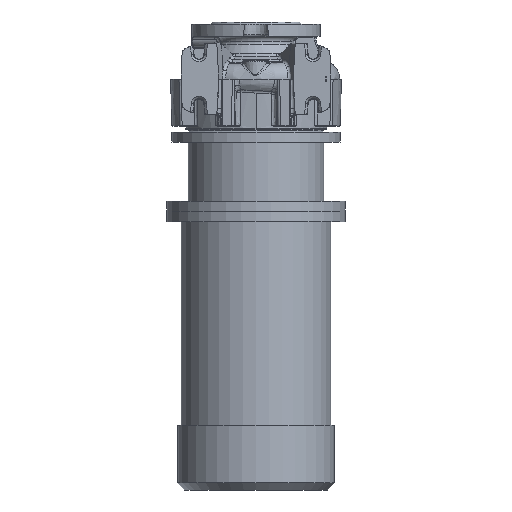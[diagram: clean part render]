
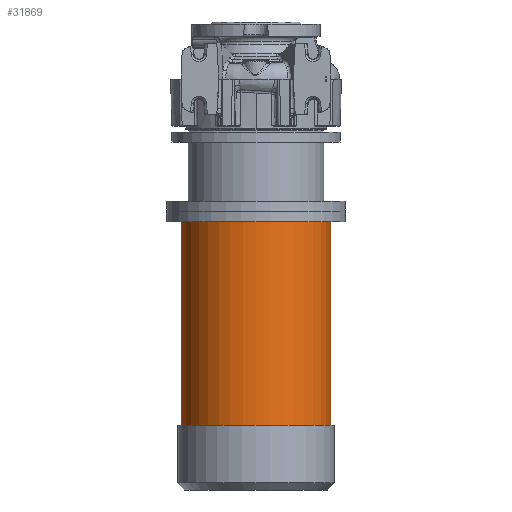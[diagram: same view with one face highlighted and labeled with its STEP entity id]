
A CAD part, front view. The second image highlights one B-rep face of the part: STEP entity #31869.
In plain terms, the highlighted cylindrical face has radius 105 mm (diameter 210 mm), a partial arc.
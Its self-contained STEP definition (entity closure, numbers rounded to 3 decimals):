
#1111 = CIRCLE ( 'NONE', #25333, 105. ) ;
#2021 = ORIENTED_EDGE ( 'NONE', *, *, #17860, .T. ) ;
#2478 = EDGE_CURVE ( 'NONE', #52232, #36428, #34868, .T. ) ;
#6817 = CARTESIAN_POINT ( 'NONE',  ( -105., 0., -485.3 ) ) ;
#7974 = DIRECTION ( 'NONE',  ( 0., 0., -1. ) ) ;
#9544 = CIRCLE ( 'NONE', #26095, 105. ) ;
#11314 = CARTESIAN_POINT ( 'NONE',  ( 0., 0., -200.3 ) ) ;
#11354 = ORIENTED_EDGE ( 'NONE', *, *, #20079, .F. ) ;
#11966 = CARTESIAN_POINT ( 'NONE',  ( 105., 0., -576.3 ) ) ;
#13580 = VERTEX_POINT ( 'NONE', #24090 ) ;
#13991 = FACE_OUTER_BOUND ( 'NONE', #46686, .T. ) ;
#14147 = VECTOR ( 'NONE', #33276, 1000. ) ;
#17860 = EDGE_CURVE ( 'NONE', #41848, #52232, #1111, .T. ) ;
#18582 = EDGE_CURVE ( 'NONE', #41848, #13580, #26844, .T. ) ;
#19357 = CARTESIAN_POINT ( 'NONE',  ( -105., 0., -576.3 ) ) ;
#19770 = DIRECTION ( 'NONE',  ( 0., 0., -1. ) ) ;
#20079 = EDGE_CURVE ( 'NONE', #13580, #36428, #9544, .T. ) ;
#21643 = CARTESIAN_POINT ( 'NONE',  ( 0., 0., -485.3 ) ) ;
#24090 = CARTESIAN_POINT ( 'NONE',  ( 105., 0., -485.3 ) ) ;
#25333 = AXIS2_PLACEMENT_3D ( 'NONE', #11314, #19770, #52536 ) ;
#26015 = DIRECTION ( 'NONE',  ( 0., 0., -1. ) ) ;
#26095 = AXIS2_PLACEMENT_3D ( 'NONE', #21643, #7974, #30597 ) ;
#26844 = LINE ( 'NONE', #11966, #53301 ) ;
#27360 = DIRECTION ( 'NONE',  ( -1., 0., 0. ) ) ;
#30597 = DIRECTION ( 'NONE',  ( -1., 0., 0. ) ) ;
#31497 = AXIS2_PLACEMENT_3D ( 'NONE', #36094, #50326, #27360 ) ;
#31869 = ADVANCED_FACE ( 'NONE', ( #13991 ), #59108, .T. ) ;
#33276 = DIRECTION ( 'NONE',  ( 0., 0., -1. ) ) ;
#33343 = ORIENTED_EDGE ( 'NONE', *, *, #2478, .T. ) ;
#34653 = CARTESIAN_POINT ( 'NONE',  ( 105., 0., -200.3 ) ) ;
#34868 = LINE ( 'NONE', #19357, #14147 ) ;
#36094 = CARTESIAN_POINT ( 'NONE',  ( 0., 0., -576.3 ) ) ;
#36428 = VERTEX_POINT ( 'NONE', #6817 ) ;
#41848 = VERTEX_POINT ( 'NONE', #34653 ) ;
#42393 = CARTESIAN_POINT ( 'NONE',  ( -105., 0., -200.3 ) ) ;
#46686 = EDGE_LOOP ( 'NONE', ( #58695, #2021, #33343, #11354 ) ) ;
#50326 = DIRECTION ( 'NONE',  ( 0., 0., -1. ) ) ;
#52232 = VERTEX_POINT ( 'NONE', #42393 ) ;
#52536 = DIRECTION ( 'NONE',  ( -1., 0., 0. ) ) ;
#53301 = VECTOR ( 'NONE', #26015, 1000. ) ;
#58695 = ORIENTED_EDGE ( 'NONE', *, *, #18582, .F. ) ;
#59108 = CYLINDRICAL_SURFACE ( 'NONE', #31497, 105. ) ;
